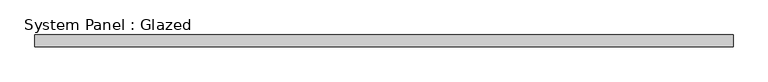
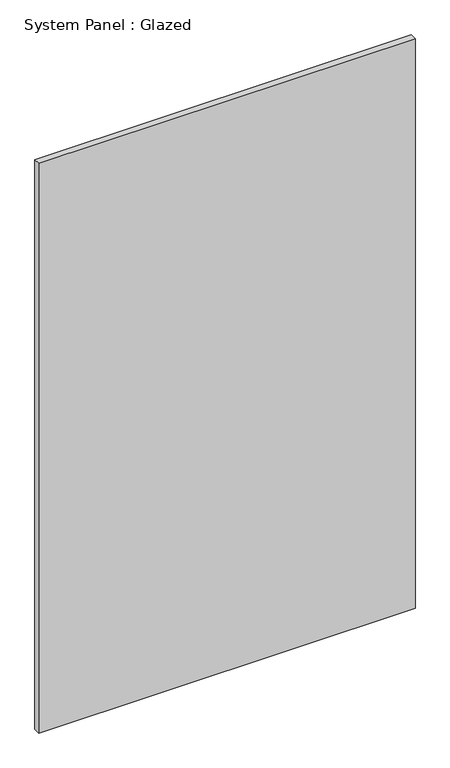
"""IFC4 building model written with IfcOpenShell, lengths in millimetres: plate geometry, System Panel : Glazed."""

from ifc_helpers import new_model, si_unit, origin, origin_with_axes, place, context, project, spatial, polyline, outline, extrude, source, transform, mapped, element, save


def system_panel_glazed_f0492a79(model_context):
    return source(origin(), model_context, "Body", "SweptSolid", [
        extrude(outline(polyline([(762.0, -44.45), (-762.0, -44.45), (-762.0, -19.05), (762.0, -19.05), (762.0, -44.45)])), origin_with_axes(), (0.0, 0.0, 1.0), 2438.4),
    ])


if __name__ == "__main__":
    model = new_model("IFC4")
    model_context = context("Model", 3, world=origin())
    ifc_project = project(units=[si_unit("LENGTHUNIT", "METRE", prefix="MILLI")], contexts=[model_context])
    site = spatial("IfcSite", under=ifc_project)
    building = spatial("IfcBuilding", under=site)
    placement = place(None, origin())
    system_panel_glazed_shape = system_panel_glazed_f0492a79(model_context)
    element("IfcPlate", 1, ObjectType="System Panel : Glazed", at=placement, inside=building, context=model_context, shape_type="MappedRepresentation", body=[
        mapped(system_panel_glazed_shape, transform((0.0, 0.0, 0.0), x_axis=(1.0, 0.0, 0.0), y_axis=(0.0, 1.0, 0.0), z_axis=(0.0, 0.0, 1.0))),
    ])
    save(model, "model.ifc")
